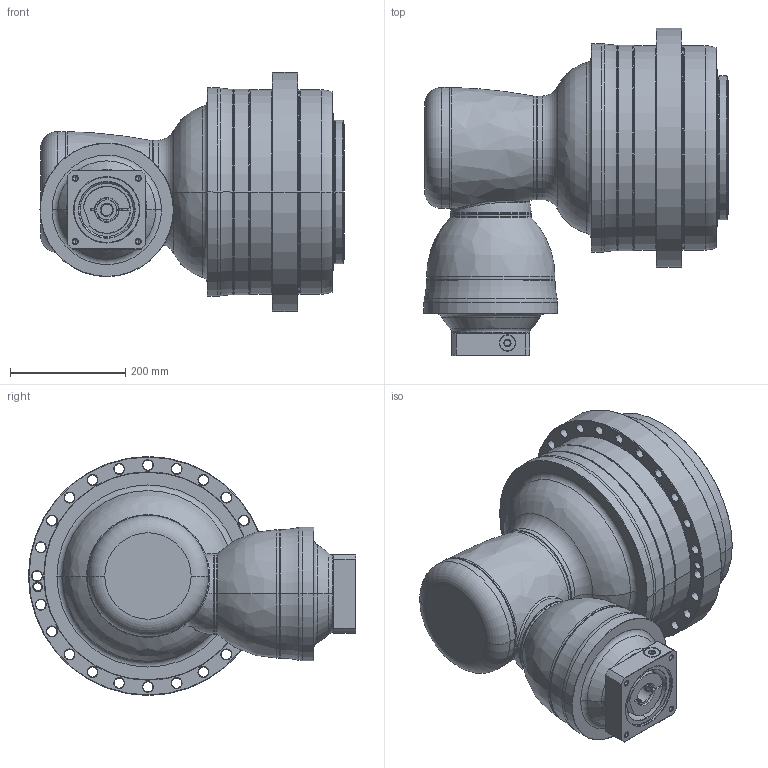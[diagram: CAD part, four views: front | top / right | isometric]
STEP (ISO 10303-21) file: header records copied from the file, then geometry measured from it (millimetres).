
FILE_DESCRIPTION((''),'2;1');
FILE_NAME('APK355_4ST_35-P0409800201_ASM','2018-10-04T',('D00080'),(''),'PRO/ENGINEER BY PARAMETRIC TECHNOLOGY CORPORATION, 2015240','PRO/ENGINEER BY PARAMETRIC TECHNOLOGY CORPORATION, 2015240','');
FILE_SCHEMA(('CONFIG_CONTROL_DESIGN'));
Length unit declared in the file: millimetre
Products named in the file (13): P1008600002; P1315600001; P1007601001; P1317610301; P1821110001; P0276101003; P0357101103; P1222100001; P0503800012; P0912503001; P0409800201; 21711422019; APK355_4ST_35-P0409800201_ASM
Assembly tree (12 placements, depth 2):
  APK355_4ST_35-P0409800201_ASM
    P1008600002
    P1315600001
    P1007601001
    P1317610301
    P1821110001
    P0276101003
    P0357101103
    P1222100001
    P0503800012
    P0912503001
    P0409800201
    21711422019
Bounding box: 528 x 568 x 415 mm (x, y, z)
Volume: 43631737.2 mm3; surface area: 2110642.8 mm2
Topology: 13 solids, 40 shells, 817 faces, 1851 edges, 1109 vertices
Faces by surface type: cylinder 321, cone 234, plane 131, torus 96, bspline 33, sphere 2
Entity records: 29383 total; most frequent: CARTESIAN_POINT 10399, DIRECTION 4381, ORIENTED_EDGE 3504, AXIS2_PLACEMENT_3D 1880, EDGE_CURVE 1807, VERTEX_POINT 1109, CIRCLE 1059, EDGE_LOOP 978
